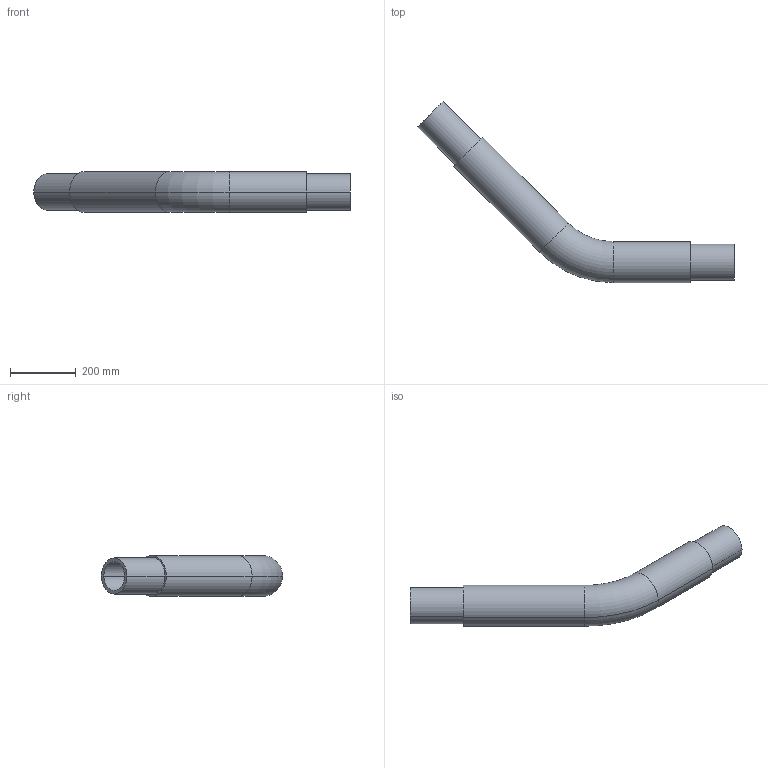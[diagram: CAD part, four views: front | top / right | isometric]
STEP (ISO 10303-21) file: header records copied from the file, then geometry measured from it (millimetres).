
FILE_DESCRIPTION (( 'STEP AP203' ), '1' );
FILE_NAME ('KP_4-125-110SCEC.step', '2011-08-08T11:38:07', ( '' ), ( '' ), 'SwSTEP 2.0', 'SolidWorks 2011', '' );
FILE_SCHEMA (( 'CONFIG_CONTROL_DESIGN' ));
Length unit declared in the file: millimetre
Products named in the file (1): KP_4-125-110SCEC
Bounding box: 965 x 552.5 x 125 mm (x, y, z)
Volume: 5165297.4 mm3; surface area: 1306547.3 mm2
Topology: 2 solids, 2 shells, 28 faces, 56 edges, 32 vertices
Faces by surface type: cylinder 16, torus 8, plane 4
Entity records: 815 total; most frequent: DIRECTION 154, CARTESIAN_POINT 117, ORIENTED_EDGE 112, AXIS2_PLACEMENT_3D 69, EDGE_CURVE 56, CIRCLE 40, EDGE_LOOP 32, VERTEX_POINT 32
